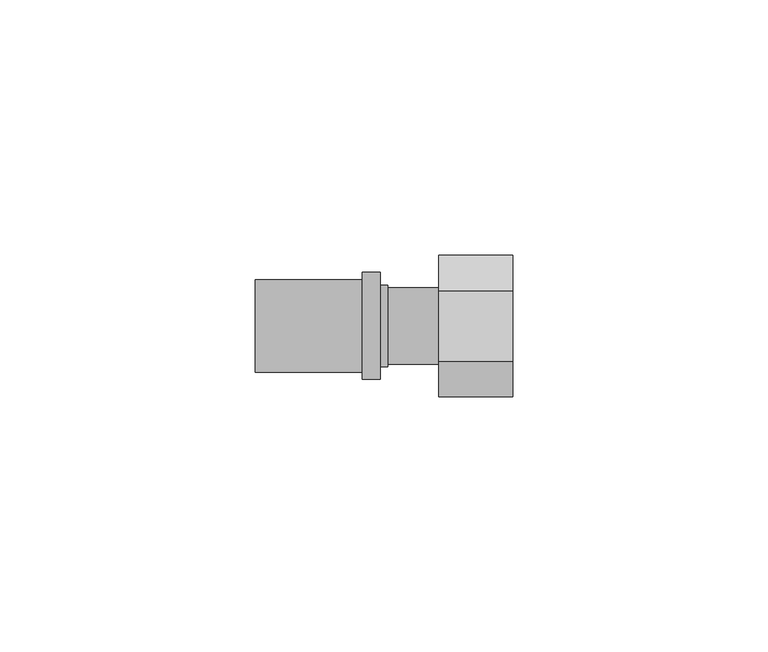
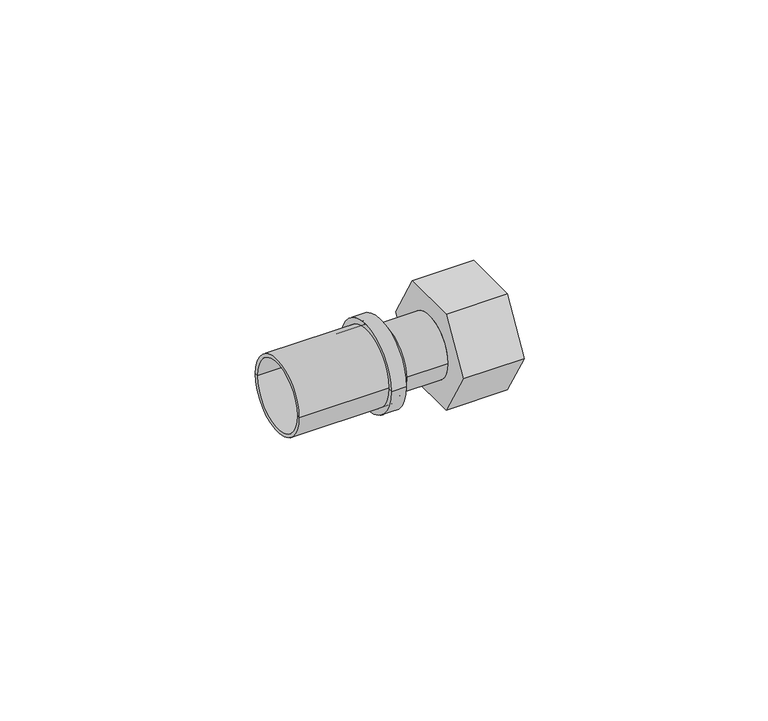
"""IFC4 building model written with IfcOpenShell, lengths in millimetres: pipe fitting geometry, Astra Gás - Conexão Rosca Móvel - GRM : Astra Gás - Conexão Rosca Móvel - GRM."""

import ifcopenshell
import ifcopenshell.guid

model = None  # the IFC model being written
_history = None  # IfcOwnerHistory: only IFC2X3 demands one
_inside = {}  # id of a spatial element -> (the spatial element, [elements in it])
_under = {}  # id of a project, library or spatial element -> (it, [spatial elements below it])
_declared = {}  # id of a project -> (the project, [libraries it declares])
_typed = {}  # id of a type object -> (the type object, [elements of that type])
_made_of = {}  # id of a material, layer set ... -> (it, [elements and type objects made of it])


def new_model(schema):
    """Start an empty IFC model of exactly this schema.

    Asked for "IFC4X3", IfcOpenShell would pick the latest addendum, in which some entities
    have other attributes; the version numbers below select the first issue.
    IFC2X3 requires an IfcOwnerHistory on every rooted entity: one is made here for all.
    """
    global model, _history
    if schema == "IFC4X3":
        model = ifcopenshell.file(schema_version=(4, 3, 0, 0))
    else:
        model = ifcopenshell.file(schema=schema)
    _inside.clear()
    _under.clear()
    _declared.clear()
    _typed.clear()
    _made_of.clear()
    _history = None
    if model.schema == "IFC2X3":
        org = make("IfcOrganization", Name="unknown")
        user = make(
            "IfcPersonAndOrganization",
            ThePerson=make("IfcPerson", FamilyName="unknown"),
            TheOrganization=org,
        )
        app = make(
            "IfcApplication",
            ApplicationDeveloper=org,
            Version="unknown",
            ApplicationFullName="unknown",
            ApplicationIdentifier="unknown",
        )
        _history = make(
            "IfcOwnerHistory",
            OwningUser=user,
            OwningApplication=app,
            ChangeAction="ADDED",
            CreationDate=0,
        )
    return model


def make(cls, **values):
    """One entity of the class cls with the attributes given. An attribute that is None is left unset."""
    return model.create_entity(
        cls, **{name: value for name, value in values.items() if value is not None}
    )


def rooted(cls, **values):
    """An entity with a GlobalId (a new one), such as an element, a storey or a relation."""
    return make(cls, GlobalId=ifcopenshell.guid.new(), OwnerHistory=_history, **values)


def si_unit(unit_type, name, prefix=None):
    """IfcSIUnit, for example si_unit("LENGTHUNIT", "METRE", prefix="MILLI")."""
    return make("IfcSIUnit", UnitType=unit_type, Prefix=prefix, Name=name)


def assignment(units):
    """IfcUnitAssignment: the units of a project."""
    return None if units is None else make("IfcUnitAssignment", Units=units)


def point(xyz):
    """IfcCartesianPoint."""
    return None if xyz is None else make("IfcCartesianPoint", Coordinates=xyz)


def direction(xyz):
    """IfcDirection."""
    return None if xyz is None else make("IfcDirection", DirectionRatios=xyz)


def frame(location, z_axis=None, x_axis=None):
    """IfcAxis2Placement3D, a coordinate frame: its origin and axes. An axis left out is left unset."""
    return make(
        "IfcAxis2Placement3D",
        Location=point(location),
        Axis=direction(z_axis),
        RefDirection=direction(x_axis),
    )


def origin():
    """The frame at (0, 0, 0) with its axes left unset."""
    return frame((0.0, 0.0, 0.0))


def place(relative_to, where):
    """IfcLocalPlacement: puts the frame where relative to a parent placement (None: the world)."""
    return make(
        "IfcLocalPlacement", PlacementRelTo=relative_to, RelativePlacement=where
    )


def context(
    kind, dimensions, precision=None, world=None, true_north=None, identifier=None
):
    """IfcGeometricRepresentationContext, for example the 3D "Model" context."""
    return make(
        "IfcGeometricRepresentationContext",
        ContextIdentifier=identifier,
        ContextType=kind,
        CoordinateSpaceDimension=dimensions,
        Precision=precision,
        WorldCoordinateSystem=world,
        TrueNorth=true_north,
    )


def project(units=None, contexts=None):
    """IfcProject with its units and contexts."""
    return rooted(
        "IfcProject",
        Name="project",
        RepresentationContexts=contexts,
        UnitsInContext=assignment(units),
    )


def spatial(cls, under=None, at=None, **own):
    """A site, building, storey or space (cls), placed at a placement, below another one or the project."""
    s = rooted(cls, ObjectPlacement=at, **own)
    if under is not None:
        _under.setdefault(under.id(), (under, []))[1].append(s)
    return s


def polyline(points):
    """IfcPolyline through the points."""
    return make("IfcPolyline", Points=[point(p) for p in points])


def circle_curve(where, radius):
    """IfcCircle in the frame where."""
    return make("IfcCircle", Position=where, Radius=radius)


def shape(context_of_items, identifier, shape_type, items):
    """IfcShapeRepresentation: the items that make up one representation, for example the "Body"."""
    return make(
        "IfcShapeRepresentation",
        ContextOfItems=context_of_items,
        RepresentationIdentifier=identifier,
        RepresentationType=shape_type,
        Items=items,
    )


def source(mapping_origin, context_of_items, identifier, shape_type, items):
    """IfcRepresentationMap: a shape defined once, which mapped items show again and again."""
    return make(
        "IfcRepresentationMap",
        MappingOrigin=mapping_origin,
        MappedRepresentation=shape(context_of_items, identifier, shape_type, items),
    )


def transform(
    local_origin,
    x_axis=None,
    y_axis=None,
    z_axis=None,
    scale=None,
    scale2=None,
    scale3=None,
    uniform=True,
):
    """IfcCartesianTransformationOperator3D, or its non-uniform kind. x_axis, y_axis, z_axis: its Axis1, 2, 3."""
    if uniform:
        return make(
            "IfcCartesianTransformationOperator3D",
            Axis1=direction(x_axis),
            Axis2=direction(y_axis),
            LocalOrigin=point(local_origin),
            Scale=scale,
            Axis3=direction(z_axis),
        )
    return make(
        "IfcCartesianTransformationOperator3DnonUniform",
        Axis1=direction(x_axis),
        Axis2=direction(y_axis),
        LocalOrigin=point(local_origin),
        Scale=scale,
        Axis3=direction(z_axis),
        Scale2=scale2,
        Scale3=scale3,
    )


def mapped(mapping_source, mapping_target):
    """IfcMappedItem: shows the shape of a source again, moved by a transform."""
    return make(
        "IfcMappedItem", MappingSource=mapping_source, MappingTarget=mapping_target
    )


def made_of(thing, what):
    """Note that an element or type object is made of a material, layer set ...; save() writes the relation."""
    if what is not None:
        _made_of.setdefault(what.id(), (what, []))[1].append(thing)
    return thing


def element(
    cls,
    number,
    at=None,
    inside=None,
    cuts=None,
    type_object=None,
    material=None,
    context=None,
    identifier="Body",
    shape_type=None,
    held_by="IfcProductDefinitionShape",
    body=None,
    shapes=None,
    **own,
):
    """One element of the class cls, such as IfcWall. Its Tag is "e" and its number.

    at: its placement. inside: the storey or other place that contains it. cuts: it is an
    opening in that element (IfcRelVoidsElement). A single representation is given by context,
    identifier, shape_type and body (its items); several are given by shapes. held_by: the class
    of the entity that holds the representations. save() writes the other relations.
    """
    e = rooted(cls, Tag="e%d" % number, ObjectPlacement=at, **own)
    if body is not None:
        shapes = [shape(context, identifier, shape_type, body)]
    if shapes is not None:
        e.Representation = make(held_by, Representations=shapes)
    if inside is not None:
        _inside.setdefault(inside.id(), (inside, []))[1].append(e)
    if cuts is not None:
        rooted(
            "IfcRelVoidsElement", RelatingBuildingElement=cuts, RelatedOpeningElement=e
        )
    if type_object is not None:
        _typed.setdefault(type_object.id(), (type_object, []))[1].append(e)
    return made_of(e, material)


def aggregate(whole, parts):
    """IfcRelAggregates: a whole, such as a stair, and the parts it consists of."""
    return rooted("IfcRelAggregates", RelatingObject=whole, RelatedObjects=parts)


def save(model, path):
    """Write the relations noted so far, then the file.

    IfcRelAggregates (storeys below a building ...), IfcRelContainedInSpatialStructure (elements
    in a storey), IfcRelDefinesByType, IfcRelAssociatesMaterial and IfcRelDeclares: one each for
    every whole, place, type object, material and project.
    """
    for whole, parts in _under.values():
        aggregate(whole, parts)
    for where, things in _inside.values():
        rooted(
            "IfcRelContainedInSpatialStructure",
            RelatedElements=things,
            RelatingStructure=where,
        )
    for kind, things in _typed.values():
        rooted("IfcRelDefinesByType", RelatedObjects=things, RelatingType=kind)
    for what, things in _made_of.values():
        rooted("IfcRelAssociatesMaterial", RelatedObjects=things, RelatingMaterial=what)
    for by, libraries in _declared.values():
        rooted("IfcRelDeclares", RelatingContext=by, RelatedDefinitions=libraries)
    model.write(path)


def plane_surface(at):
    """IfcPlane: the flat surface through the origin of the frame at, square to its z axis."""
    return make("IfcPlane", Position=at)


def cylinder_surface(at, radius):
    """IfcCylindricalSurface: all points at the distance radius from the z axis of the frame at."""
    return make("IfcCylindricalSurface", Position=at, Radius=radius)


def revolved_surface(curve, axis_point, axis_direction):
    """IfcSurfaceOfRevolution: the curve turned about the line through axis_point along axis_direction."""
    return make(
        "IfcSurfaceOfRevolution",
        SweptCurve=make("IfcArbitraryOpenProfileDef", ProfileType="CURVE", Curve=curve),
        AxisPosition=make("IfcAxis1Placement", Location=point(axis_point), Axis=direction(axis_direction)),
    )


def advanced_brep(points, edges, surfaces, faces):
    """IfcAdvancedBrep: a solid bounded by faces that lie on surfaces and meet in shared edges.

    An edge is (start, end): straight between two places in points (the first is 0);
    or (start, end, curve); or (start, end, curve, False) where it runs against its curve.
    A face is (place in surfaces, loops), or (place, loops, False) where it looks against
    its surface's normal. A loop lists edges by number (the first is 1), with a minus sign
    where the edge is run from its end to its start. The first loop is the outer one.
    """
    corners = [point(p) for p in points]
    vertices = [make("IfcVertexPoint", VertexGeometry=c) for c in corners]
    made = []
    for start, end, *more in edges:
        made.append(
            make(
                "IfcEdgeCurve",
                EdgeStart=vertices[start],
                EdgeEnd=vertices[end],
                EdgeGeometry=more[0] if more else make("IfcPolyline", Points=[corners[start], corners[end]]),
                SameSense=more[1] if len(more) > 1 else True,
            )
        )
    hull = []
    for where, loops, *sense in faces:
        bounds = []
        for j, loop in enumerate(loops):
            ring = [make("IfcOrientedEdge", EdgeElement=made[abs(k) - 1], Orientation=k > 0) for k in loop]
            bounds.append(
                make(
                    "IfcFaceOuterBound" if j == 0 else "IfcFaceBound",
                    Bound=make("IfcEdgeLoop", EdgeList=ring),
                    Orientation=True,
                )
            )
        hull.append(make("IfcAdvancedFace", Bounds=bounds, FaceSurface=surfaces[where], SameSense=sense[0] if sense else True))
    return make("IfcAdvancedBrep", Outer=make("IfcClosedShell", CfsFaces=hull))


def pipe_fitting_0619748f(model_context):
    return source(origin(), model_context, "Body", "AdvancedBrep", [
        advanced_brep(
        [(-26.0, -9.05, 0.0), (-26.0, 9.05, 0.0), (-2.5, 9.05, 0.0), (-2.5, -9.05, 0.0), (-26.0, -8.25, 0.0), (-26.0, 8.25, 0.0), (-2.5, -8.25, 0.0), (-2.5, 8.25, 0.0)],
        [
            (0, 1, circle_curve(frame((-26.0, 0.0, 0.0), z_axis=(1.0, 0.0, 0.0), x_axis=(0.0, 1.0, 0.0)), 9.05)),
            (1, 2),
            (2, 3, circle_curve(frame((-2.5, 0.0, 0.0), z_axis=(-1.0, 0.0, 0.0), x_axis=(0.0, 1.0, 0.0)), 9.05)),
            (3, 0),
            (1, 0, circle_curve(frame((-26.0, 0.0, 0.0), z_axis=(1.0, 0.0, 0.0), x_axis=(0.0, 1.0, 0.0)), 9.05)),
            (3, 2, circle_curve(frame((-2.5, 0.0, 0.0), z_axis=(-1.0, 0.0, 0.0), x_axis=(0.0, 1.0, 0.0)), 9.05)),
            (4, 5, circle_curve(frame((-26.0, 0.0, 0.0), z_axis=(1.0, 0.0, 0.0), x_axis=(0.0, 1.0, 0.0)), 8.25)),
            (5, 1),
            (0, 4),
            (5, 4, circle_curve(frame((-26.0, 0.0, 0.0), z_axis=(1.0, 0.0, 0.0), x_axis=(0.0, 1.0, 0.0)), 8.25)),
            (6, 7, circle_curve(frame((-2.5, 0.0, 0.0), z_axis=(1.0, 0.0, 0.0), x_axis=(0.0, 1.0, 0.0)), 8.25)),
            (7, 5),
            (4, 6),
            (7, 6, circle_curve(frame((-2.5, 0.0, 0.0), z_axis=(1.0, 0.0, 0.0), x_axis=(0.0, 1.0, 0.0)), 8.25)),
            (2, 7),
            (6, 3),
        ],
        [
            cylinder_surface(frame((-26.0, 0.0, 0.0), z_axis=(-1.0, 0.0, 0.0), x_axis=(0.0, 1.0, 0.0)), 9.05),
            plane_surface(frame((-26.0, 0.0, 0.0), z_axis=(-1.0, 0.0, 0.0), x_axis=(0.0, 1.0, 0.0))),
            revolved_surface(polyline([(-26.0, 8.25, 0.0), (-2.5, 8.25, 0.0)]), (-26.0, 0.0, 0.0), (-1.0, 0.0, 0.0)),
            plane_surface(frame((-2.5, 0.0, 0.0), z_axis=(1.0, 0.0, 0.0), x_axis=(0.0, 1.0, 0.0))),
        ],
        [
            (0, [[1, 2, 3, 4]]),
            (0, [[5, -4, 6, -2]]),
            (1, [[7, 8, -1, 9]]),
            (1, [[10, -9, -5, -8]]),
            (2, [[11, 12, -7, 13]]),
            (2, [[14, -13, -10, -12]]),
            (3, [[-3, 15, -11, 16]]),
            (3, [[-6, -16, -14, -15]]),
        ],
    ),
        advanced_brep(
        [(-2.5, -9.05, 0.0), (-2.5, 9.05, 0.0), (-5.0, 9.05, 0.0), (-5.0, -9.05, 0.0), (-2.5, 0.0, 0.0), (0.0, -8.0, 0.0), (0.0, 8.0, 0.0), (0.0, 0.0, 0.0), (-1.5, -8.0, 0.0), (-1.5, 8.0, 0.0), (-1.5, -10.5, 0.0), (-1.5, 10.5, 0.0), (-5.0, -10.5, 0.0), (-5.0, 10.5, 0.0)],
        [
            (0, 1, circle_curve(frame((-2.5, 0.0, 0.0), z_axis=(1.0, 0.0, 0.0), x_axis=(0.0, 1.0, 0.0)), 9.05)),
            (1, 2),
            (2, 3, circle_curve(frame((-5.0, 0.0, 0.0), z_axis=(-1.0, 0.0, 0.0), x_axis=(0.0, 1.0, 0.0)), 9.05)),
            (3, 0),
            (1, 0, circle_curve(frame((-2.5, 0.0, 0.0), z_axis=(1.0, 0.0, 0.0), x_axis=(0.0, 1.0, 0.0)), 9.05)),
            (3, 2, circle_curve(frame((-5.0, 0.0, 0.0), z_axis=(-1.0, 0.0, 0.0), x_axis=(0.0, 1.0, 0.0)), 9.05)),
            (4, 1),
            (0, 4),
            (5, 6, circle_curve(frame((0.0, 0.0, 0.0), z_axis=(1.0, 0.0, 0.0), x_axis=(0.0, 1.0, 0.0)), 8.0)),
            (6, 7),
            (7, 5),
            (6, 5, circle_curve(frame((0.0, 0.0, 0.0), z_axis=(1.0, 0.0, 0.0), x_axis=(0.0, 1.0, 0.0)), 8.0)),
            (8, 9, circle_curve(frame((-1.5, 0.0, 0.0), z_axis=(1.0, 0.0, 0.0), x_axis=(0.0, 1.0, 0.0)), 8.0)),
            (9, 6),
            (5, 8),
            (9, 8, circle_curve(frame((-1.5, 0.0, 0.0), z_axis=(1.0, 0.0, 0.0), x_axis=(0.0, 1.0, 0.0)), 8.0)),
            (10, 11, circle_curve(frame((-1.5, 0.0, 0.0), z_axis=(1.0, 0.0, 0.0), x_axis=(0.0, 1.0, 0.0)), 10.5)),
            (11, 9),
            (8, 10),
            (11, 10, circle_curve(frame((-1.5, 0.0, 0.0), z_axis=(1.0, 0.0, 0.0), x_axis=(0.0, 1.0, 0.0)), 10.5)),
            (12, 13, circle_curve(frame((-5.0, 0.0, 0.0), z_axis=(1.0, 0.0, 0.0), x_axis=(0.0, 1.0, 0.0)), 10.5)),
            (13, 11),
            (10, 12),
            (13, 12, circle_curve(frame((-5.0, 0.0, 0.0), z_axis=(1.0, 0.0, 0.0), x_axis=(0.0, 1.0, 0.0)), 10.5)),
            (2, 13),
            (12, 3),
        ],
        [
            revolved_surface(polyline([(-5.0, 9.05, 0.0), (-2.5, 9.05, 0.0)]), (-5.0, 0.0, 0.0), (-1.0, 0.0, 0.0)),
            plane_surface(frame((-2.5, 0.0, 0.0), z_axis=(-1.0, 0.0, 0.0), x_axis=(0.0, 1.0, 0.0))),
            plane_surface(frame((0.0, 0.0, 0.0), z_axis=(1.0, 0.0, 0.0), x_axis=(0.0, 1.0, 0.0))),
            cylinder_surface(frame((-5.0, 0.0, 0.0), z_axis=(-1.0, 0.0, 0.0), x_axis=(0.0, 1.0, 0.0)), 8.0),
            plane_surface(frame((-1.5, 0.0, 0.0), z_axis=(1.0, 0.0, 0.0), x_axis=(0.0, 1.0, 0.0))),
            cylinder_surface(frame((-5.0, 0.0, 0.0), z_axis=(-1.0, 0.0, 0.0), x_axis=(0.0, 1.0, 0.0)), 10.5),
            plane_surface(frame((-5.0, 0.0, 0.0), z_axis=(-1.0, 0.0, 0.0), x_axis=(0.0, 1.0, 0.0))),
        ],
        [
            (0, [[1, 2, 3, 4]]),
            (0, [[5, -4, 6, -2]]),
            (1, [[7, -1, 8]]),
            (1, [[-8, -5, -7]]),
            (2, [[9, 10, 11]]),
            (2, [[12, -11, -10]]),
            (3, [[13, 14, -9, 15]]),
            (3, [[16, -15, -12, -14]]),
            (4, [[17, 18, -13, 19]]),
            (4, [[20, -19, -16, -18]]),
            (5, [[21, 22, -17, 23]]),
            (5, [[24, -23, -20, -22]]),
            (6, [[-3, 25, -21, 26]]),
            (6, [[-6, -26, -24, -25]]),
        ],
    ),
        advanced_brep(
        [(17.0, -9.5, 0.0), (24.5, -9.5, 0.0), (24.5, 9.5, 0.0), (17.0, 9.5, 0.0), (17.0, 0.0, 0.0), (24.5, -13.8564065, 0.0), (24.5, -6.9282032, -12.0), (24.5, 6.9282032, -12.0), (24.5, 13.8564065, 0.0), (24.5, 6.9282032, 12.0), (24.5, -6.9282032, 12.0), (10.0, -13.8564065, 0.0), (10.0, -6.9282032, 12.0), (10.0, 6.9282032, 12.0), (10.0, 13.8564065, 0.0), (10.0, 6.9282032, -12.0), (10.0, -6.9282032, -12.0), (10.0, -7.5, 0.0), (10.0, 7.5, 0.0), (0.0, -7.5, 0.0), (0.0, 7.5, 0.0), (0.0, 0.0, 0.0)],
        [
            (0, 1),
            (1, 2, circle_curve(frame((24.5, 0.0, 0.0), z_axis=(1.0, 0.0, 0.0), x_axis=(0.0, 1.0, 0.0)), 9.5)),
            (2, 3),
            (3, 0, circle_curve(frame((17.0, 0.0, 0.0), z_axis=(-1.0, 0.0, 0.0), x_axis=(0.0, 1.0, 0.0)), 9.5)),
            (0, 3, circle_curve(frame((17.0, 0.0, 0.0), z_axis=(-1.0, 0.0, 0.0), x_axis=(0.0, 1.0, 0.0)), 9.5)),
            (2, 1, circle_curve(frame((24.5, 0.0, 0.0), z_axis=(1.0, 0.0, 0.0), x_axis=(0.0, 1.0, 0.0)), 9.5)),
            (3, 4),
            (4, 0),
            (5, 6),
            (6, 7),
            (7, 8),
            (8, 9),
            (9, 10),
            (10, 5),
            (11, 12),
            (12, 13),
            (13, 14),
            (14, 15),
            (15, 16),
            (16, 11),
            (17, 18, circle_curve(frame((10.0, 0.0, 0.0), z_axis=(1.0, 0.0, 0.0), x_axis=(0.0, 1.0, 0.0)), 7.5)),
            (18, 17, circle_curve(frame((10.0, 0.0, 0.0), z_axis=(1.0, 0.0, 0.0), x_axis=(0.0, 1.0, 0.0)), 7.5)),
            (5, 11),
            (16, 6),
            (15, 7),
            (14, 8),
            (13, 9),
            (12, 10),
            (19, 20, circle_curve(frame((0.0, 0.0, 0.0), z_axis=(1.0, 0.0, 0.0), x_axis=(0.0, 1.0, 0.0)), 7.5)),
            (20, 18),
            (17, 19),
            (20, 19, circle_curve(frame((0.0, 0.0, 0.0), z_axis=(1.0, 0.0, 0.0), x_axis=(0.0, 1.0, 0.0)), 7.5)),
            (19, 21),
            (21, 20),
        ],
        [
            revolved_surface(polyline([(17.0, 9.5, 0.0), (24.5, 9.5, 0.0)]), (10.0, 0.0, 0.0), (-1.0, 0.0, 0.0)),
            plane_surface(frame((17.0, 0.0, 0.0), z_axis=(1.0, 0.0, 0.0), x_axis=(0.0, 1.0, 0.0))),
            plane_surface(frame((24.5, -13.8564065, 0.0), z_axis=(1.0, 0.0, 0.0), x_axis=(0.0, 0.4999999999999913, -0.8660254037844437))),
            plane_surface(frame((10.0, -13.8564065, 0.0), z_axis=(-1.0, 0.0, 0.0), x_axis=(0.0, -0.4999999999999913, 0.8660254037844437))),
            plane_surface(frame((24.5, -13.8564065, 0.0), z_axis=(0.0, -0.8660254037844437, -0.4999999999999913), x_axis=(-1.0, 0.0, 0.0))),
            plane_surface(frame((24.5, -6.9282032, -12.0), z_axis=(0.0, 0.0, -1.0), x_axis=(-1.0, 0.0, 0.0))),
            plane_surface(frame((24.5, 6.9282032, -12.0), z_axis=(0.0, 0.8660254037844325, -0.5000000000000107), x_axis=(-1.0, 0.0, 0.0))),
            plane_surface(frame((24.5, 13.8564065, 0.0), z_axis=(0.0, 0.8660254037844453, 0.49999999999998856), x_axis=(-1.0, 0.0, 0.0))),
            plane_surface(frame((24.5, 6.9282032, 12.0), z_axis=(0.0, 0.0, 1.0), x_axis=(-1.0, 0.0, 0.0))),
            plane_surface(frame((24.5, -6.9282032, 12.0), z_axis=(0.0, -0.8660254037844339, 0.5000000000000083), x_axis=(-1.0, 0.0, 0.0))),
            cylinder_surface(frame((0.0, 0.0, 0.0), z_axis=(-1.0, 0.0, 0.0), x_axis=(0.0, 1.0, 0.0)), 7.5),
            plane_surface(frame((0.0, 0.0, 0.0), z_axis=(-1.0, 0.0, 0.0), x_axis=(0.0, 1.0, 0.0))),
        ],
        [
            (0, [[1, 2, 3, 4]]),
            (0, [[-1, 5, -3, 6]]),
            (1, [[-4, 7, 8]]),
            (1, [[-5, -8, -7]]),
            (2, [[9, 10, 11, 12, 13, 14], [-2, -6]]),
            (3, [[15, 16, 17, 18, 19, 20], [21, 22]]),
            (4, [[-9, 23, -20, 24]]),
            (5, [[-10, -24, -19, 25]]),
            (6, [[-11, -25, -18, 26]]),
            (7, [[-12, -26, -17, 27]]),
            (8, [[-13, -27, -16, 28]]),
            (9, [[-14, -28, -15, -23]]),
            (10, [[29, 30, -21, 31]]),
            (10, [[-30, 32, -31, -22]]),
            (11, [[-29, 33, 34]]),
            (11, [[-32, -34, -33]]),
        ],
    ),
    ])


if __name__ == "__main__":
    model = new_model("IFC4")
    model_context = context("Model", 3, world=origin())
    ifc_project = project(units=[si_unit("LENGTHUNIT", "METRE", prefix="MILLI")], contexts=[model_context])
    site = spatial("IfcSite", under=ifc_project)
    building = spatial("IfcBuilding", under=site)
    placement = place(None, origin())
    pipe_fitting_shape = pipe_fitting_0619748f(model_context)
    element("IfcPipeFitting", 1, ObjectType="Astra Gás - Conexão Rosca Móvel - GRM : Astra Gás - Conexão Rosca Móvel - GRM", at=placement, inside=building, context=model_context, shape_type="MappedRepresentation", body=[
        mapped(pipe_fitting_shape, transform((0.0, 0.0, 0.0), x_axis=(1.0, 0.0, 0.0), y_axis=(0.0, 1.0, 0.0), z_axis=(0.0, 0.0, 1.0))),
    ])
    save(model, "model.ifc")
